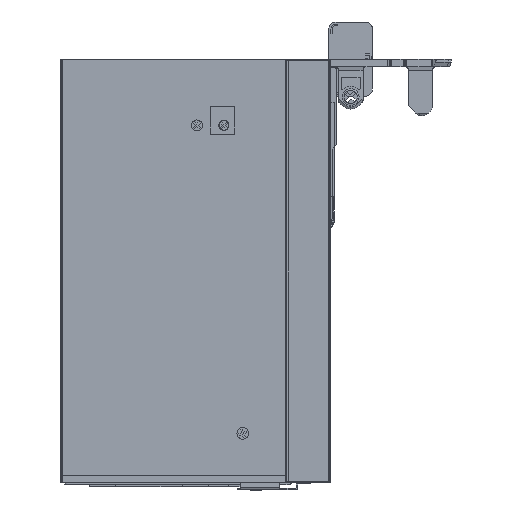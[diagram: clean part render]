
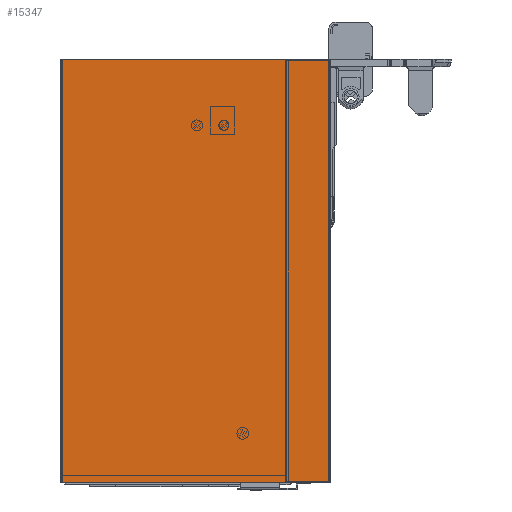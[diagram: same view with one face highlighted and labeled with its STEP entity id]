
A CAD part, left-side view. The second image highlights one B-rep face of the part: STEP entity #15347.
In plain terms, the highlighted planar face has unit normal (-1, 0, 0).
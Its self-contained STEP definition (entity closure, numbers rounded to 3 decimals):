
#1289 = VERTEX_POINT ( 'NONE', #16808 ) ;
#2240 = VERTEX_POINT ( 'NONE', #12781 ) ;
#3009 = PLANE ( 'NONE',  #27977 ) ;
#7695 = LINE ( 'NONE', #25378, #49471 ) ;
#11847 = DIRECTION ( 'NONE',  ( 0., -1., 0. ) ) ;
#12781 = CARTESIAN_POINT ( 'NONE',  ( 0., 15.2, 0. ) ) ;
#14626 = VECTOR ( 'NONE', #23236, 1000. ) ;
#15061 = VECTOR ( 'NONE', #39855, 1000. ) ;
#15347 = ADVANCED_FACE ( 'NONE', ( #52209 ), #3009, .T. ) ;
#16354 = ORIENTED_EDGE ( 'NONE', *, *, #37734, .F. ) ;
#16556 = DIRECTION ( 'NONE',  ( -1., 0., 0. ) ) ;
#16808 = CARTESIAN_POINT ( 'NONE',  ( 0., 15.2, -291. ) ) ;
#18125 = ORIENTED_EDGE ( 'NONE', *, *, #27365, .T. ) ;
#18684 = VECTOR ( 'NONE', #18871, 1000. ) ;
#18871 = DIRECTION ( 'NONE',  ( 0., 0., 1. ) ) ;
#19101 = LINE ( 'NONE', #49773, #14626 ) ;
#19299 = EDGE_CURVE ( 'NONE', #1289, #2240, #27689, .T. ) ;
#20707 = DIRECTION ( 'NONE',  ( 0., 0., 1. ) ) ;
#23236 = DIRECTION ( 'NONE',  ( 0., -1., 0. ) ) ;
#24805 = EDGE_LOOP ( 'NONE', ( #55798, #16354, #18125, #56456 ) ) ;
#25378 = CARTESIAN_POINT ( 'NONE',  ( 0., 199., -291. ) ) ;
#27365 = EDGE_CURVE ( 'NONE', #58237, #1289, #7695, .T. ) ;
#27689 = LINE ( 'NONE', #27989, #18684 ) ;
#27977 = AXIS2_PLACEMENT_3D ( 'NONE', #56942, #16556, #20707 ) ;
#27989 = CARTESIAN_POINT ( 'NONE',  ( 0., 15.2, -291. ) ) ;
#35347 = CARTESIAN_POINT ( 'NONE',  ( 0., 197.9, 0. ) ) ;
#37734 = EDGE_CURVE ( 'NONE', #58237, #52248, #52832, .T. ) ;
#39855 = DIRECTION ( 'NONE',  ( 0., 0., 1. ) ) ;
#41912 = EDGE_CURVE ( 'NONE', #52248, #2240, #19101, .T. ) ;
#47168 = CARTESIAN_POINT ( 'NONE',  ( 0., 197.9, -291. ) ) ;
#49014 = CARTESIAN_POINT ( 'NONE',  ( 0., 197.9, -291. ) ) ;
#49471 = VECTOR ( 'NONE', #11847, 1000. ) ;
#49773 = CARTESIAN_POINT ( 'NONE',  ( 0., 199., 0. ) ) ;
#52209 = FACE_OUTER_BOUND ( 'NONE', #24805, .T. ) ;
#52248 = VERTEX_POINT ( 'NONE', #35347 ) ;
#52832 = LINE ( 'NONE', #49014, #15061 ) ;
#55798 = ORIENTED_EDGE ( 'NONE', *, *, #41912, .F. ) ;
#56456 = ORIENTED_EDGE ( 'NONE', *, *, #19299, .T. ) ;
#56942 = CARTESIAN_POINT ( 'NONE',  ( 0., 199., -291. ) ) ;
#58237 = VERTEX_POINT ( 'NONE', #47168 ) ;
